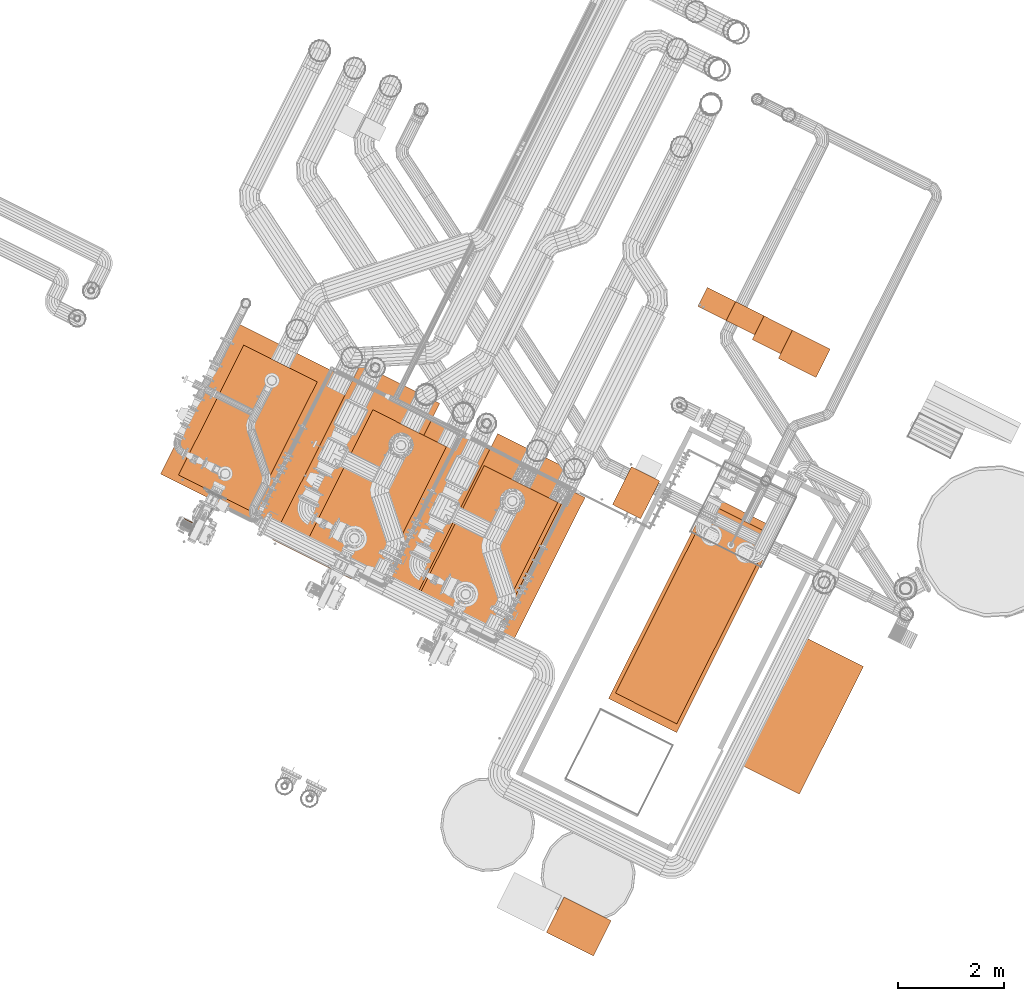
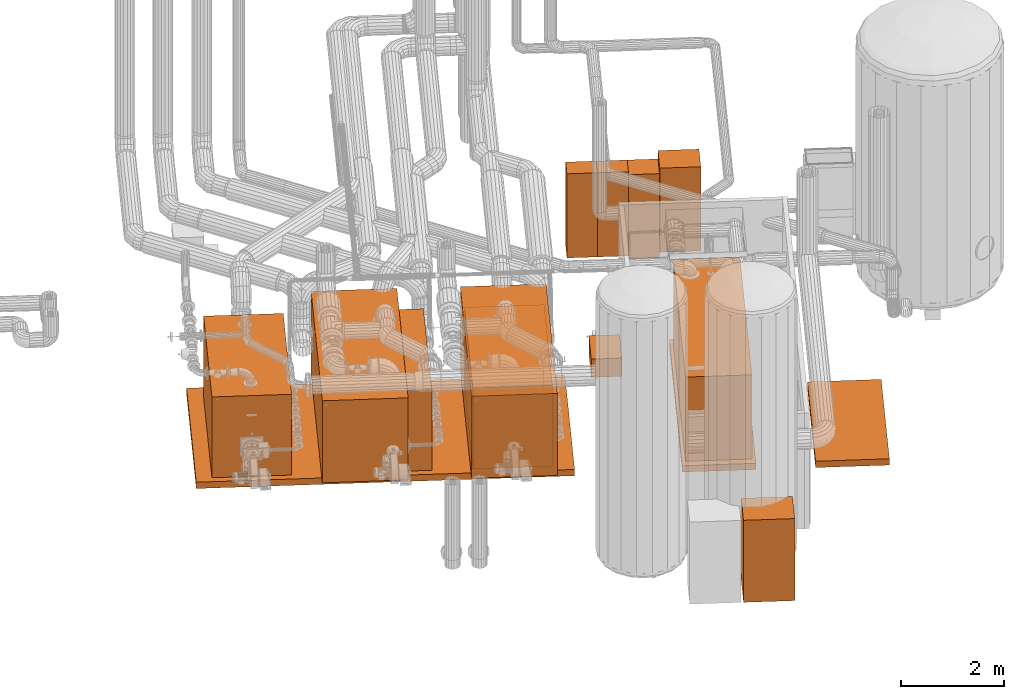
# One storey, part 175 of 206: 16 proxies.
"""IFC2X3 building model written with IfcOpenShell, lengths in metres."""

from ifc_helpers import new_model, si_unit, derived_unit, direction, frame, origin, place, context, subcontext, project, spatial, face_set, faceted_brep, surface_model, source, transform, mapped, material, type_object, type_shapes, element, save


model = new_model("IFC2X3")

# Units and contexts
model_context = context("Model", 3, precision=5.2338327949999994e-05, world=origin(), true_north=direction((0.0, 1.0)))
body_context = subcontext(model_context, "Body", "Model", "MODEL_VIEW")
ifc_project = project(units=[si_unit("LENGTHUNIT", "METRE"), si_unit("AREAUNIT", "SQUARE_METRE"), si_unit("VOLUMEUNIT", "CUBIC_METRE"), si_unit("MASSUNIT", "GRAM", prefix="KILO"), si_unit("PLANEANGLEUNIT", "RADIAN"), derived_unit("THERMALTRANSMITTANCEUNIT", [(si_unit("MASSUNIT", "GRAM", prefix="KILO"), 1), (si_unit("THERMODYNAMICTEMPERATUREUNIT", "KELVIN"), -1), (si_unit("TIMEUNIT", "SECOND"), -3)])], contexts=[model_context])

# Site, building, storey
site_placement = place(None, frame((0.0, 0.0, 0.0), z_axis=(0.0, 0.0, 1.0), x_axis=(0.8939966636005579, -0.4480736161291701, 0.0)))
site = spatial("IfcSite", under=ifc_project, at=site_placement, Name="Default", CompositionType="ELEMENT")
building_placement = place(site_placement, origin())
building = spatial("IfcBuilding", under=site, at=building_placement, CompositionType="ELEMENT")
storey_placement = place(building_placement, origin())
storey = spatial("IfcBuildingStorey", under=building, at=storey_placement, Name="Erdgeschoss", CompositionType="ELEMENT", Elevation=0.0)

# Proxies
ifc_material_1 = material(Name="IfcSurfaceStyle #277833")
building_element_proxy_type_1 = type_object("IfcBuildingElementProxyType", Name="Quader 277766:Quader 277766", PredefinedType="NOTDEFINED", material=ifc_material_1)
shared_shape_1 = source(origin(), body_context, "Body", "SurfaceModel", [
    surface_model("IfcFaceBasedSurfaceModel", [(31.200000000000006, 8.993208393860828, 0.15000000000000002), (31.200000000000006, 4.993208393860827, 0.15000000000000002), (31.200000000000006, 4.993208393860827, 2.15), (31.200000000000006, 8.993208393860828, 2.15), (29.90000000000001, 4.993208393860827, 2.15), (29.90000000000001, 8.993208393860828, 2.15), (29.90000000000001, 4.993208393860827, 0.15000000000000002), (29.90000000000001, 8.993208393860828, 0.15000000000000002)], [face_set([[[0, 1, 2, 3]], [[3, 2, 4, 5]], [[5, 4, 6, 7]], [[7, 6, 1, 0]], [[0, 3, 5, 7]], [[6, 4, 2, 1]]])]),
])
type_shapes(building_element_proxy_type_1, [shared_shape_1])
proxy_1_placement = place(storey_placement, origin())
element("IfcBuildingElementProxy", 1, at=proxy_1_placement, inside=storey, type_object=building_element_proxy_type_1, material=ifc_material_1, Name="Quader", ObjectType="Quader", context=body_context, shape_type="MappedRepresentation", body=[
    mapped(shared_shape_1, transform((0.0, 0.0, 0.0), scale=1.0)),
])
ifc_material_2 = material(Name="IfcSurfaceStyle #271082")
building_element_proxy_type_2 = type_object("IfcBuildingElementProxyType", Name="Quader 277839:Quader 277839", PredefinedType="NOTDEFINED", material=ifc_material_2)
shared_shape_2 = source(origin(), body_context, "Body", "Brep", [
    faceted_brep([(24.473496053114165, 4.678909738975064, 0.15000000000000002), (24.473496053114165, 8.403909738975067, 0.15000000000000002), (24.473496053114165, 8.403909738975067, 2.1), (24.473496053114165, 4.678909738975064, 2.1), (22.799496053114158, 8.403909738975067, 2.1), (22.799496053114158, 4.678909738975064, 2.1), (22.799496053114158, 8.403909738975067, 0.15000000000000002), (22.799496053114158, 4.678909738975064, 0.15000000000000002)], [[[0, 1, 2, 3]], [[3, 2, 4, 5]], [[5, 4, 6, 7]], [[7, 6, 1, 0]], [[0, 3, 5, 7]], [[6, 4, 2, 1]]]),
])
type_shapes(building_element_proxy_type_2, [shared_shape_2])
proxy_2_placement = place(storey_placement, origin())
element("IfcBuildingElementProxy", 2, at=proxy_2_placement, inside=storey, type_object=building_element_proxy_type_2, material=ifc_material_2, Name="Quader", ObjectType="Quader", context=body_context, shape_type="MappedRepresentation", body=[
    mapped(shared_shape_2, transform((0.0, 0.0, 0.0), scale=1.0)),
])
building_element_proxy_type_3 = type_object("IfcBuildingElementProxyType", Name="Quader 277908:Quader 277908", PredefinedType="NOTDEFINED", material=ifc_material_2)
shared_shape_3 = source(origin(), body_context, "Body", "Brep", [
    faceted_brep([(27.383062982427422, 4.66061052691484, 0.15000000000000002), (27.383062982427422, 8.38561052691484, 0.15000000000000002), (27.383062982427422, 8.38561052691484, 2.1), (27.383062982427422, 4.66061052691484, 2.1), (25.709062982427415, 8.38561052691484, 2.1), (25.709062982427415, 4.66061052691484, 2.1), (25.709062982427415, 8.38561052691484, 0.15000000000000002), (25.709062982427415, 4.66061052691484, 0.15000000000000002)], [[[0, 1, 2, 3]], [[3, 2, 4, 5]], [[5, 4, 6, 7]], [[7, 6, 1, 0]], [[0, 3, 5, 7]], [[6, 4, 2, 1]]]),
])
type_shapes(building_element_proxy_type_3, [shared_shape_3])
proxy_3_placement = place(storey_placement, origin())
element("IfcBuildingElementProxy", 3, at=proxy_3_placement, inside=storey, type_object=building_element_proxy_type_3, material=ifc_material_2, Name="Quader", ObjectType="Quader", context=body_context, shape_type="MappedRepresentation", body=[
    mapped(shared_shape_3, transform((0.0, 0.0, 0.0), scale=1.0)),
])
ifc_material_3 = material(Name="IfcSurfaceStyle #277")
building_element_proxy_type_4 = type_object("IfcBuildingElementProxyType", Name="Quader 277931:Quader 277931", PredefinedType="NOTDEFINED", material=ifc_material_3)
shared_shape_4 = source(origin(), body_context, "Body", "Brep", [
    faceted_brep([(22.21844787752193, 4.978208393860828, 0.15000000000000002), (22.21844787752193, 7.728208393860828, 0.15000000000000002), (22.21844787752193, 7.728208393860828, 2.07), (22.21844787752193, 4.978208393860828, 2.07), (20.663447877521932, 7.728208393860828, 2.07), (20.663447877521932, 4.978208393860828, 2.07), (20.663447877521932, 7.728208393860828, 0.15000000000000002), (20.663447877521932, 4.978208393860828, 0.15000000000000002)], [[[0, 1, 2, 3]], [[3, 2, 4, 5]], [[5, 4, 6, 7]], [[7, 6, 1, 0]], [[0, 3, 5, 7]], [[6, 4, 2, 1]]]),
])
type_shapes(building_element_proxy_type_4, [shared_shape_4])
proxy_4_placement = place(storey_placement, origin())
element("IfcBuildingElementProxy", 4, at=proxy_4_placement, inside=storey, type_object=building_element_proxy_type_4, material=ifc_material_3, Name="Quader", ObjectType="Quader", context=body_context, shape_type="MappedRepresentation", body=[
    mapped(shared_shape_4, transform((0.0, 0.0, 0.0), scale=1.0)),
])
building_element_proxy_type_5 = type_object("IfcBuildingElementProxyType", Name="Quader 297247:Quader 297247", PredefinedType="NOTDEFINED", material=ifc_material_3)
shared_shape_5 = source(origin(), body_context, "Body", "Brep", [
    faceted_brep([(24.952321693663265, 4.978208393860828, 0.15000000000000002), (24.952321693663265, 7.728208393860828, 0.15000000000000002), (24.952321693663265, 7.728208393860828, 2.07), (24.952321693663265, 4.978208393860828, 2.07), (23.39732169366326, 7.728208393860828, 2.07), (23.39732169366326, 4.978208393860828, 2.07), (23.39732169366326, 7.728208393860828, 0.15000000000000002), (23.39732169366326, 4.978208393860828, 0.15000000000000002)], [[[0, 1, 2, 3]], [[3, 2, 4, 5]], [[5, 4, 6, 7]], [[7, 6, 1, 0]], [[0, 3, 5, 7]], [[6, 4, 2, 1]]]),
])
type_shapes(building_element_proxy_type_5, [shared_shape_5])
proxy_5_placement = place(storey_placement, origin())
element("IfcBuildingElementProxy", 5, at=proxy_5_placement, inside=storey, type_object=building_element_proxy_type_5, material=ifc_material_3, Name="Quader", ObjectType="Quader", context=body_context, shape_type="MappedRepresentation", body=[
    mapped(shared_shape_5, transform((0.0, 0.0, 0.0), scale=1.0)),
])
building_element_proxy_type_6 = type_object("IfcBuildingElementProxyType", Name="Quader 297270:Quader 297270", PredefinedType="NOTDEFINED", material=ifc_material_3)
shared_shape_6 = source(origin(), body_context, "Body", "Brep", [
    faceted_brep([(27.307323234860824, 4.978208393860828, 0.15000000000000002), (27.307323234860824, 7.728208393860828, 0.15000000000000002), (27.307323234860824, 7.728208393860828, 2.07), (27.307323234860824, 4.978208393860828, 2.07), (25.752323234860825, 7.728208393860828, 2.07), (25.752323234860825, 4.978208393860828, 2.07), (25.752323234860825, 7.728208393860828, 0.15000000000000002), (25.752323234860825, 4.978208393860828, 0.15000000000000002)], [[[0, 1, 2, 3]], [[3, 2, 4, 5]], [[5, 4, 6, 7]], [[7, 6, 1, 0]], [[0, 3, 5, 7]], [[6, 4, 2, 1]]]),
])
type_shapes(building_element_proxy_type_6, [shared_shape_6])
proxy_6_placement = place(storey_placement, origin())
element("IfcBuildingElementProxy", 6, at=proxy_6_placement, inside=storey, type_object=building_element_proxy_type_6, material=ifc_material_3, Name="Quader", ObjectType="Quader", context=body_context, shape_type="MappedRepresentation", body=[
    mapped(shared_shape_6, transform((0.0, 0.0, 0.0), scale=1.0)),
])
ifc_material_4 = material(Name="IfcSurfaceStyle #228457")
building_element_proxy_type_7 = type_object("IfcBuildingElementProxyType", Name="Quader 326973:Quader 326973", PredefinedType="NOTDEFINED", material=ifc_material_4)
shared_shape_7 = source(origin(), body_context, "Body", "Brep", [
    faceted_brep([(30.75942678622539, 0.3587225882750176, 0.0), (31.759426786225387, 0.3587225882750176, 0.0), (31.759426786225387, 0.35872258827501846, 1.949999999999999), (30.75942678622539, 0.3587225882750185, 1.95), (31.759426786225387, 1.1087225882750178, 1.9499999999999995), (30.75942678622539, 1.1087225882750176, 1.9500000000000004), (31.759426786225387, 1.1087225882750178, 0.0), (30.75942678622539, 1.1087225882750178, 0.0)], [[[0, 1, 2, 3]], [[3, 2, 4, 5]], [[5, 4, 6, 7]], [[7, 6, 1, 0]], [[0, 3, 5, 7]], [[6, 4, 2, 1]]]),
])
type_shapes(building_element_proxy_type_7, [shared_shape_7])
proxy_7_placement = place(storey_placement, origin())
element("IfcBuildingElementProxy", 7, at=proxy_7_placement, inside=storey, type_object=building_element_proxy_type_7, material=ifc_material_4, Name="Quader", ObjectType="Quader", context=body_context, shape_type="MappedRepresentation", body=[
    mapped(shared_shape_7, transform((0.0, 0.0, 0.0), scale=1.0)),
])
building_element_proxy_type_8 = type_object("IfcBuildingElementProxyType", Name="Quader 620148:Quader 620148", PredefinedType="NOTDEFINED", material=ifc_material_4)
shared_shape_8 = source(origin(), body_context, "Body", "Brep", [
    faceted_brep([(30.616033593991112, 12.631965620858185, 0.2), (29.81603359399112, 12.631965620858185, 0.2), (29.81603359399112, 12.631965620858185, 2.2), (30.616033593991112, 12.631965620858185, 2.2), (29.81603359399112, 12.031965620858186, 2.2), (30.616033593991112, 12.031965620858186, 2.2), (29.81603359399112, 12.031965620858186, 0.2), (30.616033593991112, 12.031965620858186, 0.2)], [[[0, 1, 2, 3]], [[3, 2, 4, 5]], [[5, 4, 6, 7]], [[7, 6, 1, 0]], [[0, 3, 5, 7]], [[6, 4, 2, 1]]]),
])
type_shapes(building_element_proxy_type_8, [shared_shape_8])
proxy_8_placement = place(storey_placement, origin())
element("IfcBuildingElementProxy", 8, at=proxy_8_placement, inside=storey, type_object=building_element_proxy_type_8, material=ifc_material_4, Name="Quader", ObjectType="Quader", context=body_context, shape_type="MappedRepresentation", body=[
    mapped(shared_shape_8, transform((0.0, 0.0, 0.0), scale=1.0)),
])
building_element_proxy_type_9 = type_object("IfcBuildingElementProxyType", Name="Quader 620211:Quader 620211", PredefinedType="NOTDEFINED", material=ifc_material_4)
shared_shape_9 = source(origin(), body_context, "Body", "Brep", [
    faceted_brep([(29.81603359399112, 12.631965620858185, 0.0), (29.216033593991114, 12.631965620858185, 0.0), (29.216033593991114, 12.631965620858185, 2.0), (29.81603359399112, 12.631965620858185, 2.0), (29.216033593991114, 12.131965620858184, 2.0), (29.81603359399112, 12.131965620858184, 2.0), (29.216033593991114, 12.131965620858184, 0.0), (29.81603359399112, 12.131965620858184, 0.0)], [[[0, 1, 2, 3]], [[3, 2, 4, 5]], [[5, 4, 6, 7]], [[7, 6, 1, 0]], [[0, 3, 5, 7]], [[6, 4, 2, 1]]]),
])
type_shapes(building_element_proxy_type_9, [shared_shape_9])
proxy_9_placement = place(storey_placement, origin())
element("IfcBuildingElementProxy", 9, at=proxy_9_placement, inside=storey, type_object=building_element_proxy_type_9, material=ifc_material_4, Name="Quader", ObjectType="Quader", context=body_context, shape_type="MappedRepresentation", body=[
    mapped(shared_shape_9, transform((0.0, 0.0, 0.0), scale=1.0)),
])
ifc_material_5 = material(Name="IfcSurfaceStyle #620343")
building_element_proxy_type_10 = type_object("IfcBuildingElementProxyType", Name="Quader 620274:Quader 620274", PredefinedType="NOTDEFINED", material=ifc_material_5)
shared_shape_10 = source(origin(), body_context, "Body", "Brep", [
    faceted_brep([(31.270000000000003, 4.843208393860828, 0.0), (31.270000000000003, 9.143208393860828, 0.0), (31.270000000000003, 9.143208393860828, 0.14999999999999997), (31.270000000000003, 4.843208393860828, 0.14999999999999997), (29.830000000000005, 9.143208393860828, 0.14999999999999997), (29.830000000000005, 4.843208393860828, 0.14999999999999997), (29.830000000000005, 9.143208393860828, 0.0), (29.830000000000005, 4.843208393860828, 0.0)], [[[0, 1, 2, 3]], [[3, 2, 4, 5]], [[5, 4, 6, 7]], [[7, 6, 1, 0]], [[0, 3, 5, 7]], [[6, 4, 2, 1]]]),
])
type_shapes(building_element_proxy_type_10, [shared_shape_10])
proxy_10_placement = place(storey_placement, origin())
element("IfcBuildingElementProxy", 10, at=proxy_10_placement, inside=storey, type_object=building_element_proxy_type_10, material=ifc_material_5, Name="Quader", ObjectType="Quader", context=body_context, shape_type="MappedRepresentation", body=[
    mapped(shared_shape_10, transform((0.0, 0.0, 0.0), scale=1.0)),
])
building_element_proxy_type_11 = type_object("IfcBuildingElementProxyType", Name="Quader 620349:Quader 620349", PredefinedType="NOTDEFINED", material=ifc_material_5)
shared_shape_11 = source(origin(), body_context, "Body", "Brep", [
    faceted_brep([(27.730000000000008, 4.843208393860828, 0.0), (27.730000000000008, 8.043208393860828, 0.0), (27.730000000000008, 8.043208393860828, 0.14999999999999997), (27.730000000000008, 4.843208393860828, 0.14999999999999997), (20.35000000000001, 8.043208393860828, 0.14999999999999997), (20.35000000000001, 4.843208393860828, 0.14999999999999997), (20.35000000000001, 8.043208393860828, 0.0), (20.35000000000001, 4.843208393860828, 0.0)], [[[0, 1, 2, 3]], [[3, 2, 4, 5]], [[5, 4, 6, 7]], [[7, 6, 1, 0]], [[0, 3, 5, 7]], [[6, 4, 2, 1]]]),
])
type_shapes(building_element_proxy_type_11, [shared_shape_11])
proxy_11_placement = place(storey_placement, origin())
element("IfcBuildingElementProxy", 11, at=proxy_11_placement, inside=storey, type_object=building_element_proxy_type_11, material=ifc_material_5, Name="Quader", ObjectType="Quader", context=body_context, shape_type="MappedRepresentation", body=[
    mapped(shared_shape_11, transform((0.0, 0.0, 0.0), scale=1.0)),
])
building_element_proxy_type_12 = type_object("IfcBuildingElementProxyType", Name="Quader 620414:Quader 620414", PredefinedType="NOTDEFINED", material=ifc_material_5)
shared_shape_12 = source(origin(), body_context, "Body", "Brep", [
    faceted_brep([(33.870000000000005, 4.843208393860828, 0.0), (33.870000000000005, 4.843208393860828, 0.14999999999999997), (32.43000000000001, 4.843208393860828, 0.14999999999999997), (32.43000000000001, 4.843208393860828, 0.0), (33.870000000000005, 7.543208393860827, 0.0), (33.870000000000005, 7.543208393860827, 0.14999999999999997), (32.43000000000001, 7.543208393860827, 0.14999999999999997), (32.43000000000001, 7.543208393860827, 0.0)], [[[0, 1, 2, 3]], [[0, 4, 5, 1]], [[1, 5, 6, 2]], [[2, 6, 7, 3]], [[3, 7, 4, 0]], [[7, 6, 5, 4]]]),
])
type_shapes(building_element_proxy_type_12, [shared_shape_12])
proxy_12_placement = place(storey_placement, origin())
element("IfcBuildingElementProxy", 12, at=proxy_12_placement, inside=storey, type_object=building_element_proxy_type_12, material=ifc_material_5, Name="Quader", ObjectType="Quader", context=body_context, shape_type="MappedRepresentation", body=[
    mapped(shared_shape_12, transform((0.0, 0.0, 0.0), scale=1.0)),
])
ifc_material_6 = material(Name="IfcSurfaceStyle #623543")
building_element_proxy_type_13 = type_object("IfcBuildingElementProxyType", Name="BuildingElementProxy 32:BuildingElementProxy 32", PredefinedType="NOTDEFINED", material=ifc_material_6)
shared_shape_13 = source(origin(), body_context, "Body", "Brep", [
    faceted_brep([(21.308483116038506, 4.260042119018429, 0.7260109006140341), (21.308483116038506, 4.2774700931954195, 0.7376559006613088), (21.308483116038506, 4.25837540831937, 0.7285053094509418), (21.308483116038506, 4.275803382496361, 0.7401503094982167), (21.304532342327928, 4.287714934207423, 0.7445012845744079), (21.301675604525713, 4.289447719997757, 0.7456590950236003), (21.130911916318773, 4.260042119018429, 0.7260109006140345), (21.130911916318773, 4.289447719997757, 0.7456590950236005), (21.302899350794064, 4.289230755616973, 0.7455141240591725), (21.303910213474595, 4.288617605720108, 0.7451044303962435), (21.130911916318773, 4.25837540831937, 0.7285053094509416), (21.130911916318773, 4.287781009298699, 0.7481535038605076), (21.301675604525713, 4.2877810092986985, 0.7481535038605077), (21.302899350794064, 4.287564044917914, 0.7480085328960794), (21.303910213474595, 4.286950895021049, 0.7475988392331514), (21.304532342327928, 4.286048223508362, 0.7469956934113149)], [[[0, 1, 2]], [[2, 1, 3]], [[4, 1, 5]], [[5, 1, 0]], [[5, 0, 6]], [[6, 7, 5]], [[5, 8, 4]], [[4, 8, 9]], [[0, 2, 6]], [[6, 2, 10]], [[7, 6, 11]], [[11, 6, 10]], [[7, 11, 5]], [[5, 11, 12]], [[12, 13, 5]], [[5, 13, 8]], [[13, 14, 8]], [[8, 14, 9]], [[14, 15, 9]], [[9, 15, 4]], [[3, 1, 15]], [[15, 1, 4]], [[10, 2, 12]], [[12, 2, 3]], [[12, 3, 15]], [[14, 13, 15]], [[15, 13, 12]], [[12, 11, 10]]]),
])
type_shapes(building_element_proxy_type_13, [shared_shape_13])
proxy_13_placement = place(storey_placement, origin())
element("IfcBuildingElementProxy", 13, at=proxy_13_placement, inside=storey, type_object=building_element_proxy_type_13, material=ifc_material_6, Name="BuildingElementProxy 32", context=body_context, shape_type="MappedRepresentation", body=[
    mapped(shared_shape_13, transform((0.0, 0.0, 0.0), scale=1.0)),
])
building_element_proxy_type_14 = type_object("IfcBuildingElementProxyType", Name="Quader 849478:Quader 849478", PredefinedType="NOTDEFINED", material=ifc_material_4)
shared_shape_14 = source(origin(), body_context, "Body", "Brep", [
    faceted_brep([(28.016033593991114, 12.231965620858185, 0.0), (28.016033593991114, 12.231965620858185, 2.0), (28.016033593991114, 12.631965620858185, 2.0), (28.016033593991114, 12.631965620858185, 0.0), (28.616033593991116, 12.631965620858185, 0.0), (28.616033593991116, 12.631965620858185, 2.0), (28.616033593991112, 12.231965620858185, 2.0), (28.616033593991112, 12.231965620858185, 0.0)], [[[0, 1, 2, 3]], [[4, 3, 2, 5]], [[5, 2, 1, 6]], [[6, 1, 0, 7]], [[7, 0, 3, 4]], [[4, 5, 6, 7]]]),
])
type_shapes(building_element_proxy_type_14, [shared_shape_14])
proxy_14_placement = place(storey_placement, origin())
element("IfcBuildingElementProxy", 14, at=proxy_14_placement, inside=storey, type_object=building_element_proxy_type_14, material=ifc_material_4, Name="Quader", ObjectType="Quader", context=body_context, shape_type="MappedRepresentation", body=[
    mapped(shared_shape_14, transform((0.0, 0.0, 0.0), scale=1.0)),
])
building_element_proxy_type_15 = type_object("IfcBuildingElementProxyType", Name="Quader 849525:Quader 849525", PredefinedType="NOTDEFINED", material=ifc_material_4)
shared_shape_15 = source(origin(), body_context, "Body", "Brep", [
    faceted_brep([(28.616033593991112, 12.231965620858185, 0.0), (28.616033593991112, 12.231965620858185, 2.0), (28.616033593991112, 12.631965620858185, 2.0), (28.616033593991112, 12.631965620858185, 0.0), (29.216033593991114, 12.631965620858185, 0.0), (29.216033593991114, 12.631965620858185, 2.0), (29.21603359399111, 12.231965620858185, 2.0), (29.21603359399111, 12.231965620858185, 0.0)], [[[0, 1, 2, 3]], [[4, 3, 2, 5]], [[5, 2, 1, 6]], [[6, 1, 0, 7]], [[7, 0, 3, 4]], [[4, 5, 6, 7]]]),
])
type_shapes(building_element_proxy_type_15, [shared_shape_15])
proxy_15_placement = place(storey_placement, origin())
element("IfcBuildingElementProxy", 15, at=proxy_15_placement, inside=storey, type_object=building_element_proxy_type_15, material=ifc_material_4, Name="Quader", ObjectType="Quader", context=body_context, shape_type="MappedRepresentation", body=[
    mapped(shared_shape_15, transform((0.0, 0.0, 0.0), scale=1.0)),
])
ifc_material_7 = material(Name="IfcSurfaceStyle #270045")
building_element_proxy_type_16 = type_object("IfcBuildingElementProxyType", Name="Quader 851264:Quader 851264", PredefinedType="NOTDEFINED", material=ifc_material_7)
shared_shape_16 = source(origin(), body_context, "Body", "Brep", [
    faceted_brep([(28.250576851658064, 8.955480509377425, 0.0), (28.250576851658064, 8.155480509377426, 0.0), (28.250576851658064, 8.155480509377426, 0.435), (28.250576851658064, 8.955480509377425, 0.435), (28.850576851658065, 8.155480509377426, 0.435), (28.850576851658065, 8.955480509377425, 0.435), (28.850576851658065, 8.155480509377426, 0.0), (28.850576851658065, 8.955480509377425, 0.0)], [[[0, 1, 2, 3]], [[3, 2, 4, 5]], [[5, 4, 6, 7]], [[7, 6, 1, 0]], [[0, 3, 5, 7]], [[6, 4, 2, 1]]]),
])
type_shapes(building_element_proxy_type_16, [shared_shape_16])
proxy_16_placement = place(storey_placement, origin())
element("IfcBuildingElementProxy", 16, at=proxy_16_placement, inside=storey, type_object=building_element_proxy_type_16, material=ifc_material_7, Name="Quader", ObjectType="Quader", context=body_context, shape_type="MappedRepresentation", body=[
    mapped(shared_shape_16, transform((0.0, 0.0, 0.0), scale=1.0)),
])

save(model, "model.ifc")
